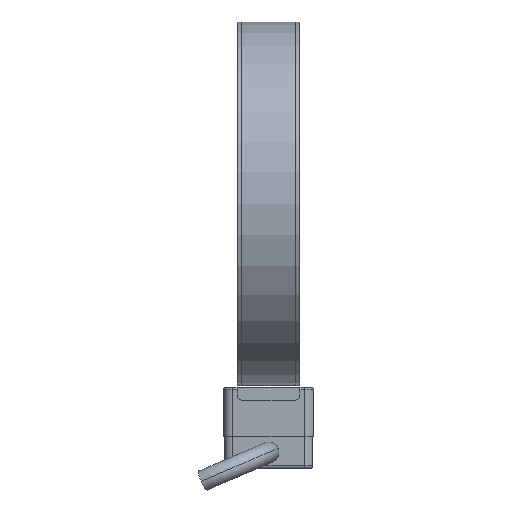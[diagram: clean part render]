
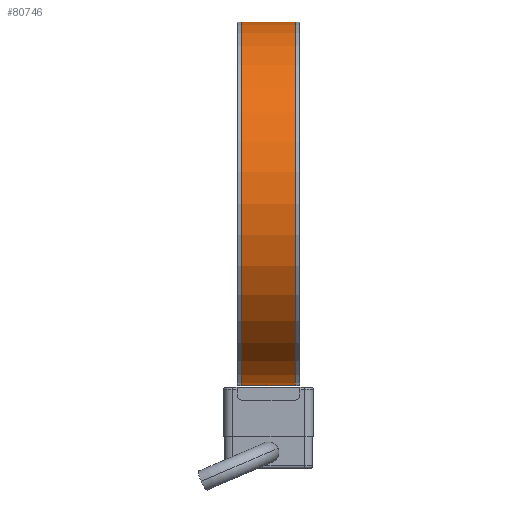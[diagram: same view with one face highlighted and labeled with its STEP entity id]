
A CAD part, left-side view. The second image highlights one B-rep face of the part: STEP entity #80746.
In plain terms, the highlighted cylindrical face has radius 40.45 mm (diameter 80.9 mm), a partial arc.
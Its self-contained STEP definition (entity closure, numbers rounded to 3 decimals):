
#1123 = EDGE_CURVE ( 'NONE', #53176, #60490, #57663, .T. ) ;
#1992 = CARTESIAN_POINT ( 'NONE',  ( 0., 13., 40.45 ) ) ;
#5154 = DIRECTION ( 'NONE',  ( 0., 0., 1. ) ) ;
#6095 = EDGE_LOOP ( 'NONE', ( #90508, #74618, #13888, #93346 ) ) ;
#10810 = CARTESIAN_POINT ( 'NONE',  ( 0., 1., 0. ) ) ;
#13888 = ORIENTED_EDGE ( 'NONE', *, *, #15884, .T. ) ;
#14015 = CARTESIAN_POINT ( 'NONE',  ( 0., 13., 0. ) ) ;
#15884 = EDGE_CURVE ( 'NONE', #79248, #66749, #81345, .T. ) ;
#16850 = AXIS2_PLACEMENT_3D ( 'NONE', #10810, #35588, #27547 ) ;
#23775 = CARTESIAN_POINT ( 'NONE',  ( 0., -15., -40.45 ) ) ;
#27547 = DIRECTION ( 'NONE',  ( 0., 0., 1. ) ) ;
#29886 = DIRECTION ( 'NONE',  ( 0., 1., 0. ) ) ;
#31372 = AXIS2_PLACEMENT_3D ( 'NONE', #14015, #62457, #78598 ) ;
#35588 = DIRECTION ( 'NONE',  ( 0., 1., 0. ) ) ;
#40451 = DIRECTION ( 'NONE',  ( 0., 1., 0. ) ) ;
#42106 = DIRECTION ( 'NONE',  ( 0., 1., 0. ) ) ;
#45596 = CARTESIAN_POINT ( 'NONE',  ( 0., 1., 40.45 ) ) ;
#53176 = VERTEX_POINT ( 'NONE', #69470 ) ;
#57089 = CARTESIAN_POINT ( 'NONE',  ( 0., 13., -40.45 ) ) ;
#57530 = FACE_OUTER_BOUND ( 'NONE', #6095, .T. ) ;
#57663 = LINE ( 'NONE', #23775, #60997 ) ;
#60490 = VERTEX_POINT ( 'NONE', #57089 ) ;
#60997 = VECTOR ( 'NONE', #40451, 1000. ) ;
#62457 = DIRECTION ( 'NONE',  ( 0., -1., 0. ) ) ;
#65341 = AXIS2_PLACEMENT_3D ( 'NONE', #94379, #29886, #5154 ) ;
#66749 = VERTEX_POINT ( 'NONE', #1992 ) ;
#68939 = EDGE_CURVE ( 'NONE', #53176, #79248, #70107, .T. ) ;
#69470 = CARTESIAN_POINT ( 'NONE',  ( 0., 1., -40.45 ) ) ;
#70107 = CIRCLE ( 'NONE', #16850, 40.45 ) ;
#72028 = VECTOR ( 'NONE', #42106, 1000. ) ;
#74618 = ORIENTED_EDGE ( 'NONE', *, *, #68939, .T. ) ;
#77673 = CIRCLE ( 'NONE', #31372, 40.45 ) ;
#78598 = DIRECTION ( 'NONE',  ( 0., 0., -1. ) ) ;
#79248 = VERTEX_POINT ( 'NONE', #45596 ) ;
#80746 = ADVANCED_FACE ( 'NONE', ( #57530 ), #86292, .T. ) ;
#81345 = LINE ( 'NONE', #97470, #72028 ) ;
#86292 = CYLINDRICAL_SURFACE ( 'NONE', #65341, 40.45 ) ;
#90508 = ORIENTED_EDGE ( 'NONE', *, *, #1123, .F. ) ;
#93346 = ORIENTED_EDGE ( 'NONE', *, *, #95626, .T. ) ;
#94379 = CARTESIAN_POINT ( 'NONE',  ( 0., -15., 0. ) ) ;
#95626 = EDGE_CURVE ( 'NONE', #66749, #60490, #77673, .T. ) ;
#97470 = CARTESIAN_POINT ( 'NONE',  ( 0., -15., 40.45 ) ) ;
